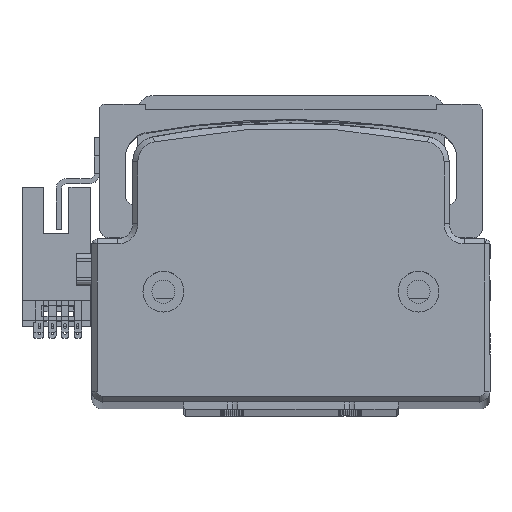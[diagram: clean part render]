
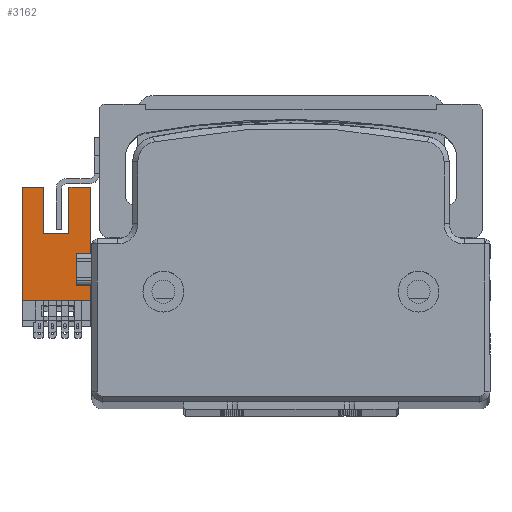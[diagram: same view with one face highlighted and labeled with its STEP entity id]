
A CAD part, top view. The second image highlights one B-rep face of the part: STEP entity #3162.
In plain terms, the highlighted planar face has unit normal (0, 0, 1) as drawn and (1, 0, 0) by its records, which use the part's own axes.
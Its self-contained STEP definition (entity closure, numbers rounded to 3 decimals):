
#397 = CARTESIAN_POINT ( 'NONE',  ( 3.2, -6.85, 0. ) ) ;
#498 = DIRECTION ( 'NONE',  ( 0., 0., 1. ) ) ;
#1991 = EDGE_CURVE ( 'NONE', #12684, #22008, #34273, .T. ) ;
#2731 = VERTEX_POINT ( 'NONE', #43367 ) ;
#3162 = ADVANCED_FACE ( 'NONE', ( #30478 ), #45818, .T. ) ;
#3267 = CARTESIAN_POINT ( 'NONE',  ( 3.2, 3.85, 22.2 ) ) ;
#4045 = CARTESIAN_POINT ( 'NONE',  ( 3.2, 3.85, 0. ) ) ;
#4284 = DIRECTION ( 'NONE',  ( 0., 0., 1. ) ) ;
#4414 = CARTESIAN_POINT ( 'NONE',  ( 3.2, 2.35, 13.2 ) ) ;
#5058 = VECTOR ( 'NONE', #7295, 1000. ) ;
#5541 = LINE ( 'NONE', #8742, #35929 ) ;
#5972 = CARTESIAN_POINT ( 'NONE',  ( 3.2, -6.85, 22.2 ) ) ;
#6897 = DIRECTION ( 'NONE',  ( 0., 1., 0. ) ) ;
#7295 = DIRECTION ( 'NONE',  ( 0., 0., 1. ) ) ;
#7630 = VECTOR ( 'NONE', #14446, 1000. ) ;
#7916 = ORIENTED_EDGE ( 'NONE', *, *, #1991, .T. ) ;
#8624 = VECTOR ( 'NONE', #31019, 1000. ) ;
#8742 = CARTESIAN_POINT ( 'NONE',  ( 3.2, -2.65, 13.2 ) ) ;
#10093 = ORIENTED_EDGE ( 'NONE', *, *, #37987, .F. ) ;
#11282 = CARTESIAN_POINT ( 'NONE',  ( 3.2, 6.55, 0. ) ) ;
#11374 = EDGE_CURVE ( 'NONE', #22008, #35914, #42377, .T. ) ;
#11797 = CARTESIAN_POINT ( 'NONE',  ( 3.2, 6.55, 0. ) ) ;
#12184 = VERTEX_POINT ( 'NONE', #31105 ) ;
#12615 = DIRECTION ( 'NONE',  ( 0., 0., 1. ) ) ;
#12684 = VERTEX_POINT ( 'NONE', #26586 ) ;
#13362 = VECTOR ( 'NONE', #498, 1000. ) ;
#13807 = VECTOR ( 'NONE', #4284, 1000. ) ;
#14154 = VERTEX_POINT ( 'NONE', #18239 ) ;
#14446 = DIRECTION ( 'NONE',  ( 0., -1., 0. ) ) ;
#14561 = LINE ( 'NONE', #46165, #13362 ) ;
#15192 = CARTESIAN_POINT ( 'NONE',  ( 3.2, 3.85, 9.2 ) ) ;
#15615 = DIRECTION ( 'NONE',  ( 0., 0., -1. ) ) ;
#16587 = VERTEX_POINT ( 'NONE', #22839 ) ;
#16899 = ORIENTED_EDGE ( 'NONE', *, *, #31885, .T. ) ;
#17043 = LINE ( 'NONE', #11797, #36052 ) ;
#17102 = DIRECTION ( 'NONE',  ( 0., -1., 0. ) ) ;
#17273 = ORIENTED_EDGE ( 'NONE', *, *, #31559, .T. ) ;
#17788 = LINE ( 'NONE', #25808, #46876 ) ;
#18117 = EDGE_LOOP ( 'NONE', ( #37549, #17273, #47227, #46857, #30860, #10093, #7916, #39113, #19056, #16899, #32660, #35966 ) ) ;
#18239 = CARTESIAN_POINT ( 'NONE',  ( 3.2, -2.65, 22.2 ) ) ;
#18519 = CARTESIAN_POINT ( 'NONE',  ( 3.2, 2.35, 13.2 ) ) ;
#19056 = ORIENTED_EDGE ( 'NONE', *, *, #42794, .T. ) ;
#19549 = DIRECTION ( 'NONE',  ( 0., 0., 1. ) ) ;
#22008 = VERTEX_POINT ( 'NONE', #15192 ) ;
#22839 = CARTESIAN_POINT ( 'NONE',  ( 3.2, 6.55, 22.2 ) ) ;
#23251 = VECTOR ( 'NONE', #29919, 1000. ) ;
#23820 = LINE ( 'NONE', #43696, #44041 ) ;
#24474 = CARTESIAN_POINT ( 'NONE',  ( 3.2, 6.55, 9.2 ) ) ;
#24735 = CARTESIAN_POINT ( 'NONE',  ( 3.2, -2.65, 13.2 ) ) ;
#25808 = CARTESIAN_POINT ( 'NONE',  ( 3.2, 3.85, 3. ) ) ;
#26586 = CARTESIAN_POINT ( 'NONE',  ( 3.2, 3.85, 3. ) ) ;
#27876 = LINE ( 'NONE', #37209, #7630 ) ;
#28873 = LINE ( 'NONE', #4414, #8624 ) ;
#29467 = DIRECTION ( 'NONE',  ( 0., 1., 0. ) ) ;
#29688 = CARTESIAN_POINT ( 'NONE',  ( 3.2, -6.85, 9.2 ) ) ;
#29919 = DIRECTION ( 'NONE',  ( 0., -1., 0. ) ) ;
#30098 = CARTESIAN_POINT ( 'NONE',  ( 3.2, 3.85, 0. ) ) ;
#30264 = EDGE_CURVE ( 'NONE', #38889, #44207, #45364, .T. ) ;
#30478 = FACE_OUTER_BOUND ( 'NONE', #18117, .T. ) ;
#30860 = ORIENTED_EDGE ( 'NONE', *, *, #43371, .T. ) ;
#31019 = DIRECTION ( 'NONE',  ( 0., 1., 0. ) ) ;
#31105 = CARTESIAN_POINT ( 'NONE',  ( 3.2, 2.35, 22.2 ) ) ;
#31559 = EDGE_CURVE ( 'NONE', #14154, #44207, #43449, .T. ) ;
#31885 = EDGE_CURVE ( 'NONE', #16587, #12184, #27876, .T. ) ;
#32580 = VERTEX_POINT ( 'NONE', #11282 ) ;
#32660 = ORIENTED_EDGE ( 'NONE', *, *, #48072, .F. ) ;
#33483 = VECTOR ( 'NONE', #6897, 1000. ) ;
#34273 = LINE ( 'NONE', #30098, #5058 ) ;
#35914 = VERTEX_POINT ( 'NONE', #24474 ) ;
#35929 = VECTOR ( 'NONE', #12615, 1000. ) ;
#35966 = ORIENTED_EDGE ( 'NONE', *, *, #41188, .F. ) ;
#36052 = VECTOR ( 'NONE', #38409, 1000. ) ;
#36166 = VERTEX_POINT ( 'NONE', #18519 ) ;
#36512 = CARTESIAN_POINT ( 'NONE',  ( 3.2, -6.85, 0. ) ) ;
#37201 = VECTOR ( 'NONE', #19549, 1000. ) ;
#37209 = CARTESIAN_POINT ( 'NONE',  ( 3.2, 3.85, 22.2 ) ) ;
#37251 = EDGE_CURVE ( 'NONE', #32580, #38889, #23820, .T. ) ;
#37549 = ORIENTED_EDGE ( 'NONE', *, *, #46257, .T. ) ;
#37987 = EDGE_CURVE ( 'NONE', #12684, #2731, #17788, .T. ) ;
#38345 = DIRECTION ( 'NONE',  ( 1., 0., 0. ) ) ;
#38409 = DIRECTION ( 'NONE',  ( 0., 0., 1. ) ) ;
#38473 = CARTESIAN_POINT ( 'NONE',  ( 3.2, 2.35, 13.2 ) ) ;
#38889 = VERTEX_POINT ( 'NONE', #36512 ) ;
#39113 = ORIENTED_EDGE ( 'NONE', *, *, #11374, .T. ) ;
#40950 = VERTEX_POINT ( 'NONE', #24735 ) ;
#41188 = EDGE_CURVE ( 'NONE', #40950, #36166, #28873, .T. ) ;
#42377 = LINE ( 'NONE', #29688, #33483 ) ;
#42794 = EDGE_CURVE ( 'NONE', #35914, #16587, #17043, .T. ) ;
#43367 = CARTESIAN_POINT ( 'NONE',  ( 3.2, 6.55, 3. ) ) ;
#43371 = EDGE_CURVE ( 'NONE', #32580, #2731, #14561, .T. ) ;
#43449 = LINE ( 'NONE', #3267, #23251 ) ;
#43696 = CARTESIAN_POINT ( 'NONE',  ( 3.2, 3.85, 0. ) ) ;
#44041 = VECTOR ( 'NONE', #17102, 1000. ) ;
#44207 = VERTEX_POINT ( 'NONE', #5972 ) ;
#44345 = AXIS2_PLACEMENT_3D ( 'NONE', #4045, #38345, #15615 ) ;
#45364 = LINE ( 'NONE', #397, #13807 ) ;
#45818 = PLANE ( 'NONE',  #44345 ) ;
#46165 = CARTESIAN_POINT ( 'NONE',  ( 3.2, 6.55, 0. ) ) ;
#46257 = EDGE_CURVE ( 'NONE', #40950, #14154, #5541, .T. ) ;
#46857 = ORIENTED_EDGE ( 'NONE', *, *, #37251, .F. ) ;
#46876 = VECTOR ( 'NONE', #29467, 1000. ) ;
#47227 = ORIENTED_EDGE ( 'NONE', *, *, #30264, .F. ) ;
#47274 = LINE ( 'NONE', #38473, #37201 ) ;
#48072 = EDGE_CURVE ( 'NONE', #36166, #12184, #47274, .T. ) ;
